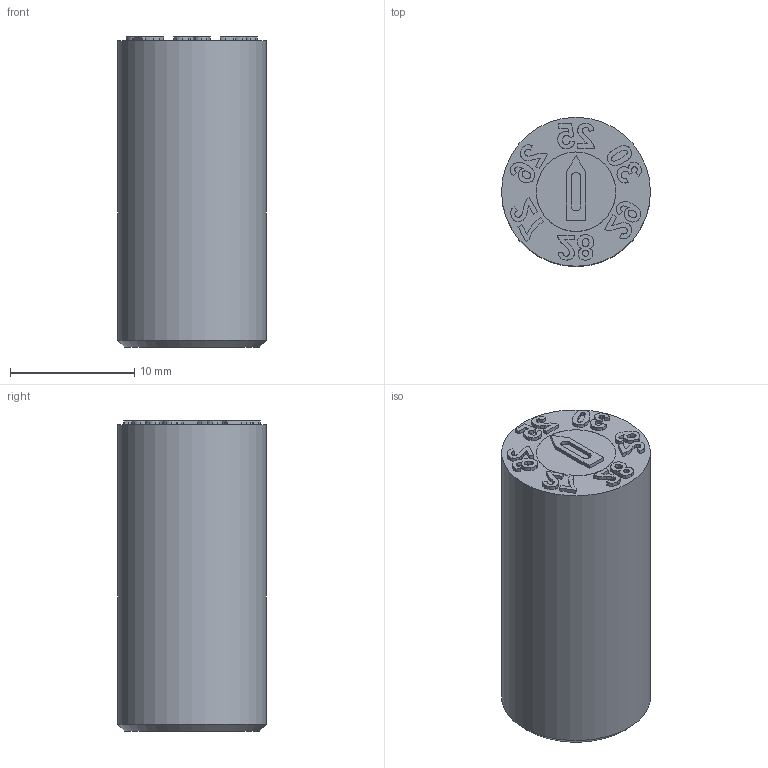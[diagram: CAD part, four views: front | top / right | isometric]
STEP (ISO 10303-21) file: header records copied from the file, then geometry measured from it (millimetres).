
FILE_DESCRIPTION(/* description */ (''),/* implementation_level */ '2;1');
FILE_NAME(/* name */ 'D6000-Y12.step',/* time_stamp */ '2025-11-25T15:11:00+01:00',/* author */ (''),/* organization */ (''),/* preprocessor_version */ 'ST-DEVELOPER v20.1',/* originating_system */ 'Autodesk Translation Framework v14.21.0.0',/* authorisation */ '');
FILE_SCHEMA (('AUTOMOTIVE_DESIGN { 1 0 10303 214 3 1 1 }'));
Length unit declared in the file: millimetre
Products named in the file (1): D6000-Y12
Bounding box: 12 x 12 x 25 mm (x, y, z)
Volume: 2663 mm3; surface area: 1316.8 mm2
Topology: 1 solids, 1 shells, 303 faces, 838 edges, 558 vertices
Faces by surface type: bspline 227, plane 67, cylinder 6, cone 3
Full cylindrical faces by diameter (mm): 5.035 x1, 6.4 x1, 6.42 x1, 12 x1
Entity records: 11769 total; most frequent: CARTESIAN_POINT 5558, ORIENTED_EDGE 1674, EDGE_CURVE 837, VERTEX_POINT 558, DIRECTION 552, B_SPLINE_CURVE_WITH_KNOTS 454, LINE 368, VECTOR 368
